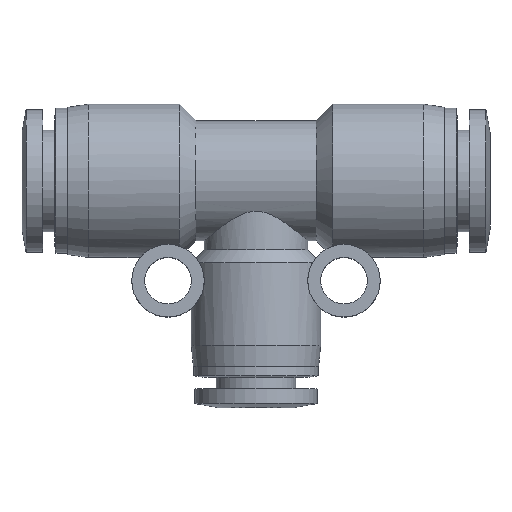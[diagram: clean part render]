
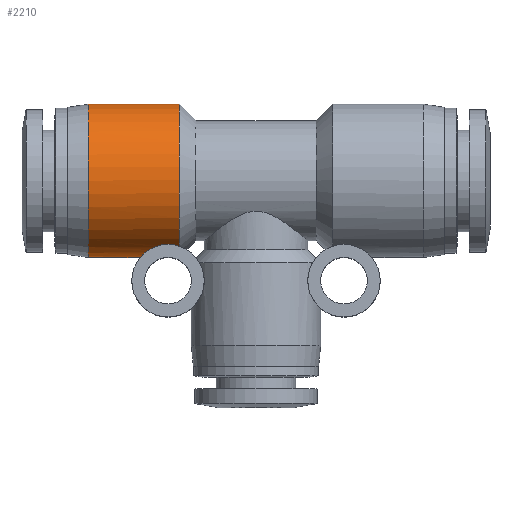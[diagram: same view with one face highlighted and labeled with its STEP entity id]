
A CAD part, top view. The second image highlights one B-rep face of the part: STEP entity #2210.
In plain terms, the highlighted cylindrical face has radius 7.4 mm (diameter 14.8 mm), a partial arc.
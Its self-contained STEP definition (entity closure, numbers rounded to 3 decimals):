
#9 = CARTESIAN_POINT ( 'NONE',  ( -10.975, -7.175, 1.812 ) ) ;
#62 = CARTESIAN_POINT ( 'NONE',  ( -11.004, -7.204, 1.69 ) ) ;
#73 = CARTESIAN_POINT ( 'NONE',  ( -9.896, -6.437, 3.651 ) ) ;
#109 = CARTESIAN_POINT ( 'NONE',  ( -7.933, -6.194, 4.05 ) ) ;
#127 = VECTOR ( 'NONE', #658, 1000. ) ;
#161 = CIRCLE ( 'NONE', #1829, 7.4 ) ;
#255 = CYLINDRICAL_SURFACE ( 'NONE', #3206, 7.4 ) ;
#325 = CARTESIAN_POINT ( 'NONE',  ( -10.3, -6.648, 3.25 ) ) ;
#355 = CARTESIAN_POINT ( 'NONE',  ( -11.181, -7.4, 0.605 ) ) ;
#358 = CARTESIAN_POINT ( 'NONE',  ( -7.4, 0., 0. ) ) ;
#373 = CARTESIAN_POINT ( 'NONE',  ( -9., -6.186, 4.061 ) ) ;
#557 = EDGE_CURVE ( 'NONE', #2742, #3068, #2865, .T. ) ;
#595 = EDGE_CURVE ( 'NONE', #3077, #2027, #161, .T. ) ;
#637 = CARTESIAN_POINT ( 'NONE',  ( -10.991, -7.191, 1.748 ) ) ;
#652 = CARTESIAN_POINT ( 'NONE',  ( -10., -6.485, 3.566 ) ) ;
#658 = DIRECTION ( 'NONE',  ( 1., 0., 0. ) ) ;
#667 = CARTESIAN_POINT ( 'NONE',  ( -8.718, -6.156, 4.107 ) ) ;
#749 = CARTESIAN_POINT ( 'NONE',  ( -8.506, -6.147, 4.12 ) ) ;
#771 = CARTESIAN_POINT ( 'NONE',  ( -16.2, -7.4, 0. ) ) ;
#784 = ORIENTED_EDGE ( 'NONE', *, *, #1240, .F. ) ;
#817 = DIRECTION ( 'NONE',  ( 1., 0., 0. ) ) ;
#866 = CARTESIAN_POINT ( 'NONE',  ( -10.519, -6.786, 2.958 ) ) ;
#886 = CARTESIAN_POINT ( 'NONE',  ( -10.148, -6.561, 3.423 ) ) ;
#914 = CARTESIAN_POINT ( 'NONE',  ( -10.942, -7.142, 1.939 ) ) ;
#916 = DIRECTION ( 'NONE',  ( 1., 0., 0. ) ) ;
#1035 = CARTESIAN_POINT ( 'NONE',  ( -11.8, 7.4, 0. ) ) ;
#1057 = ORIENTED_EDGE ( 'NONE', *, *, #595, .F. ) ;
#1149 = CARTESIAN_POINT ( 'NONE',  ( -8.947, -6.178, 4.073 ) ) ;
#1156 = EDGE_CURVE ( 'NONE', #3068, #1781, #3237, .T. ) ;
#1159 = CARTESIAN_POINT ( 'NONE',  ( -11.181, -7.4, 0. ) ) ;
#1200 = CARTESIAN_POINT ( 'NONE',  ( -11.002, -7.202, 1.701 ) ) ;
#1215 = CARTESIAN_POINT ( 'NONE',  ( -10.374, -6.694, 3.155 ) ) ;
#1217 = DIRECTION ( 'NONE',  ( 1., 0., 0. ) ) ;
#1234 = CARTESIAN_POINT ( 'NONE',  ( -11.8, -7.4, 0. ) ) ;
#1240 = EDGE_CURVE ( 'NONE', #2742, #3077, #3408, .T. ) ;
#1380 = B_SPLINE_CURVE_WITH_KNOTS ( 'NONE', 3,
 ( #1746, #355, #1466, #62, #1200, #2350, #637, #9, #914, #3443, #2317, #3463, #2065, #866, #1215, #3165, #1498, #2646, #325, #2015, #886, #652, #73, #2365, #2079, #1792, #2946, #373, #1149, #2433, #667, #749, #1812, #2176, #109, #1894, #2380, #3302 ),
 .UNSPECIFIED., .F., .F.,
 ( 4, 2, 2, 1, 1, 1, 2, 2, 2, 2, 1, 1, 1, 2, 2, 2, 2, 1, 1, 2, 2, 2, 4 ),
 ( 0.5, 0.625, 0.627, 0.629, 0.633, 0.641, 0.656, 0.687, 0.75, 0.752, 0.754, 0.758, 0.766, 0.781, 0.812, 0.875, 0.879, 0.883, 0.891, 0.906, 0.937, 0.969, 1. ),
 .UNSPECIFIED. ) ;
#1415 = FACE_OUTER_BOUND ( 'NONE', #3200, .T. ) ;
#1466 = CARTESIAN_POINT ( 'NONE',  ( -11.123, -7.326, 1.17 ) ) ;
#1498 = CARTESIAN_POINT ( 'NONE',  ( -10.356, -6.683, 3.178 ) ) ;
#1667 = AXIS2_PLACEMENT_3D ( 'NONE', #3219, #916, #3246 ) ;
#1683 = DIRECTION ( 'NONE',  ( 0., 1., 0. ) ) ;
#1745 = ORIENTED_EDGE ( 'NONE', *, *, #557, .T. ) ;
#1746 = CARTESIAN_POINT ( 'NONE',  ( -11.181, -7.4, 0. ) ) ;
#1767 = ORIENTED_EDGE ( 'NONE', *, *, #2867, .T. ) ;
#1781 = VERTEX_POINT ( 'NONE', #1159 ) ;
#1792 = CARTESIAN_POINT ( 'NONE',  ( -9.053, -6.194, 4.049 ) ) ;
#1812 = CARTESIAN_POINT ( 'NONE',  ( -8.363, -6.15, 4.116 ) ) ;
#1829 = AXIS2_PLACEMENT_3D ( 'NONE', #358, #1217, #2666 ) ;
#1894 = CARTESIAN_POINT ( 'NONE',  ( -7.66, -6.249, 3.963 ) ) ;
#2015 = CARTESIAN_POINT ( 'NONE',  ( -10.22, -6.601, 3.346 ) ) ;
#2027 = VERTEX_POINT ( 'NONE', #2536 ) ;
#2065 = CARTESIAN_POINT ( 'NONE',  ( -10.642, -6.878, 2.742 ) ) ;
#2079 = CARTESIAN_POINT ( 'NONE',  ( -9.33, -6.24, 3.978 ) ) ;
#2176 = CARTESIAN_POINT ( 'NONE',  ( -8.076, -6.173, 4.08 ) ) ;
#2210 = ADVANCED_FACE ( 'NONE', ( #1415 ), #255, .T. ) ;
#2317 = CARTESIAN_POINT ( 'NONE',  ( -10.846, -7.052, 2.247 ) ) ;
#2350 = CARTESIAN_POINT ( 'NONE',  ( -10.997, -7.197, 1.72 ) ) ;
#2365 = CARTESIAN_POINT ( 'NONE',  ( -9.569, -6.308, 3.873 ) ) ;
#2380 = CARTESIAN_POINT ( 'NONE',  ( -7.528, -6.285, 3.907 ) ) ;
#2433 = CARTESIAN_POINT ( 'NONE',  ( -8.824, -6.164, 4.095 ) ) ;
#2495 = VECTOR ( 'NONE', #2747, 1000. ) ;
#2536 = CARTESIAN_POINT ( 'NONE',  ( -7.4, -6.327, 3.837 ) ) ;
#2580 = CARTESIAN_POINT ( 'NONE',  ( -16.2, 7.4, 0. ) ) ;
#2646 = CARTESIAN_POINT ( 'NONE',  ( -10.34, -6.672, 3.2 ) ) ;
#2666 = DIRECTION ( 'NONE',  ( 0., 1., 0. ) ) ;
#2742 = VERTEX_POINT ( 'NONE', #2580 ) ;
#2747 = DIRECTION ( 'NONE',  ( 1., 0., 0. ) ) ;
#2791 = CARTESIAN_POINT ( 'NONE',  ( -11.8, 0., 0. ) ) ;
#2865 = CIRCLE ( 'NONE', #1667, 7.4 ) ;
#2867 = EDGE_CURVE ( 'NONE', #1781, #2027, #1380, .T. ) ;
#2946 = CARTESIAN_POINT ( 'NONE',  ( -9.035, -6.191, 4.053 ) ) ;
#3068 = VERTEX_POINT ( 'NONE', #771 ) ;
#3077 = VERTEX_POINT ( 'NONE', #3346 ) ;
#3165 = CARTESIAN_POINT ( 'NONE',  ( -10.367, -6.69, 3.163 ) ) ;
#3200 = EDGE_LOOP ( 'NONE', ( #1745, #3297, #1767, #1057, #784 ) ) ;
#3206 = AXIS2_PLACEMENT_3D ( 'NONE', #2791, #817, #1683 ) ;
#3219 = CARTESIAN_POINT ( 'NONE',  ( -16.2, 0., 0. ) ) ;
#3237 = LINE ( 'NONE', #1234, #127 ) ;
#3246 = DIRECTION ( 'NONE',  ( 0., 1., 0. ) ) ;
#3297 = ORIENTED_EDGE ( 'NONE', *, *, #1156, .T. ) ;
#3302 = CARTESIAN_POINT ( 'NONE',  ( -7.4, -6.327, 3.837 ) ) ;
#3346 = CARTESIAN_POINT ( 'NONE',  ( -7.4, 7.4, 0. ) ) ;
#3408 = LINE ( 'NONE', #1035, #2495 ) ;
#3443 = CARTESIAN_POINT ( 'NONE',  ( -10.911, -7.113, 2.043 ) ) ;
#3463 = CARTESIAN_POINT ( 'NONE',  ( -10.799, -7.009, 2.376 ) ) ;
